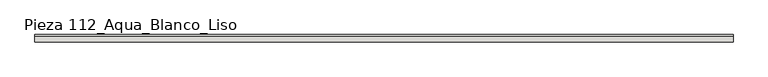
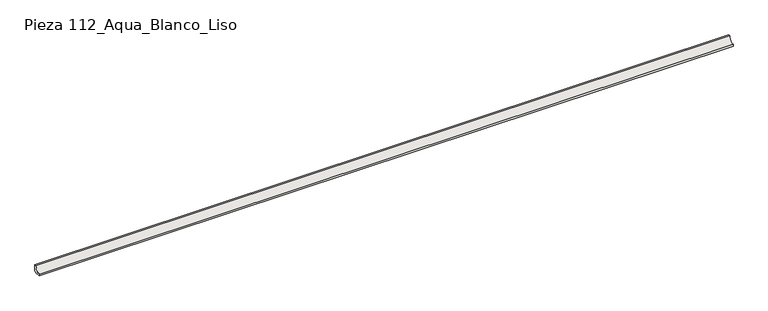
"""IFC4 building model written with IfcOpenShell, lengths in millimetres: slab geometry, ROSA GRES_112 : Pieza 112_Aqua_Blanco_Liso."""

import ifcopenshell
import ifcopenshell.guid

model = None  # the IFC model being written
_history = None  # IfcOwnerHistory: only IFC2X3 demands one
_inside = {}  # id of a spatial element -> (the spatial element, [elements in it])
_under = {}  # id of a project, library or spatial element -> (it, [spatial elements below it])
_declared = {}  # id of a project -> (the project, [libraries it declares])
_typed = {}  # id of a type object -> (the type object, [elements of that type])
_made_of = {}  # id of a material, layer set ... -> (it, [elements and type objects made of it])


def new_model(schema):
    """Start an empty IFC model of exactly this schema.

    Asked for "IFC4X3", IfcOpenShell would pick the latest addendum, in which some entities
    have other attributes; the version numbers below select the first issue.
    IFC2X3 requires an IfcOwnerHistory on every rooted entity: one is made here for all.
    """
    global model, _history
    if schema == "IFC4X3":
        model = ifcopenshell.file(schema_version=(4, 3, 0, 0))
    else:
        model = ifcopenshell.file(schema=schema)
    _inside.clear()
    _under.clear()
    _declared.clear()
    _typed.clear()
    _made_of.clear()
    _history = None
    if model.schema == "IFC2X3":
        org = make("IfcOrganization", Name="unknown")
        user = make(
            "IfcPersonAndOrganization",
            ThePerson=make("IfcPerson", FamilyName="unknown"),
            TheOrganization=org,
        )
        app = make(
            "IfcApplication",
            ApplicationDeveloper=org,
            Version="unknown",
            ApplicationFullName="unknown",
            ApplicationIdentifier="unknown",
        )
        _history = make(
            "IfcOwnerHistory",
            OwningUser=user,
            OwningApplication=app,
            ChangeAction="ADDED",
            CreationDate=0,
        )
    return model


def make(cls, **values):
    """One entity of the class cls with the attributes given. An attribute that is None is left unset."""
    return model.create_entity(
        cls, **{name: value for name, value in values.items() if value is not None}
    )


def rooted(cls, **values):
    """An entity with a GlobalId (a new one), such as an element, a storey or a relation."""
    return make(cls, GlobalId=ifcopenshell.guid.new(), OwnerHistory=_history, **values)


def si_unit(unit_type, name, prefix=None):
    """IfcSIUnit, for example si_unit("LENGTHUNIT", "METRE", prefix="MILLI")."""
    return make("IfcSIUnit", UnitType=unit_type, Prefix=prefix, Name=name)


def assignment(units):
    """IfcUnitAssignment: the units of a project."""
    return None if units is None else make("IfcUnitAssignment", Units=units)


def point(xyz):
    """IfcCartesianPoint."""
    return None if xyz is None else make("IfcCartesianPoint", Coordinates=xyz)


def direction(xyz):
    """IfcDirection."""
    return None if xyz is None else make("IfcDirection", DirectionRatios=xyz)


def frame(location, z_axis=None, x_axis=None):
    """IfcAxis2Placement3D, a coordinate frame: its origin and axes. An axis left out is left unset."""
    return make(
        "IfcAxis2Placement3D",
        Location=point(location),
        Axis=direction(z_axis),
        RefDirection=direction(x_axis),
    )


def frame_2d(location, x_axis=None):
    """IfcAxis2Placement2D, a coordinate frame in the plane: its origin and x axis."""
    return make(
        "IfcAxis2Placement2D", Location=point(location), RefDirection=direction(x_axis)
    )


def origin():
    """The frame at (0, 0, 0) with its axes left unset."""
    return frame((0.0, 0.0, 0.0))


def place(relative_to, where):
    """IfcLocalPlacement: puts the frame where relative to a parent placement (None: the world)."""
    return make(
        "IfcLocalPlacement", PlacementRelTo=relative_to, RelativePlacement=where
    )


def context(
    kind, dimensions, precision=None, world=None, true_north=None, identifier=None
):
    """IfcGeometricRepresentationContext, for example the 3D "Model" context."""
    return make(
        "IfcGeometricRepresentationContext",
        ContextIdentifier=identifier,
        ContextType=kind,
        CoordinateSpaceDimension=dimensions,
        Precision=precision,
        WorldCoordinateSystem=world,
        TrueNorth=true_north,
    )


def project(units=None, contexts=None):
    """IfcProject with its units and contexts."""
    return rooted(
        "IfcProject",
        Name="project",
        RepresentationContexts=contexts,
        UnitsInContext=assignment(units),
    )


def spatial(cls, under=None, at=None, **own):
    """A site, building, storey or space (cls), placed at a placement, below another one or the project."""
    s = rooted(cls, ObjectPlacement=at, **own)
    if under is not None:
        _under.setdefault(under.id(), (under, []))[1].append(s)
    return s


def polyline(points):
    """IfcPolyline through the points."""
    return make("IfcPolyline", Points=[point(p) for p in points])


def circle_curve(where, radius):
    """IfcCircle in the frame where."""
    return make("IfcCircle", Position=where, Radius=radius)


def trimmed(basis, trim1, trim2, sense, master):
    """IfcTrimmedCurve: the piece of a basis curve between two trims."""
    return make(
        "IfcTrimmedCurve",
        BasisCurve=basis,
        Trim1=trim1,
        Trim2=trim2,
        SenseAgreement=sense,
        MasterRepresentation=master,
    )


def segment(curve, same_sense, transition):
    """IfcCompositeCurveSegment."""
    return make(
        "IfcCompositeCurveSegment",
        Transition=transition,
        SameSense=same_sense,
        ParentCurve=curve,
    )


def composite_curve(segments, self_intersect=None):
    """IfcCompositeCurve: segments joined end to end."""
    return make("IfcCompositeCurve", Segments=segments, SelfIntersect=self_intersect)


def outline(outer, holes=None, kind="AREA"):
    """IfcArbitraryClosedProfileDef: a profile drawn as a closed curve; with holes, ...WithVoids."""
    if holes is None:
        return make("IfcArbitraryClosedProfileDef", ProfileType=kind, OuterCurve=outer)
    return make(
        "IfcArbitraryProfileDefWithVoids",
        ProfileType=kind,
        OuterCurve=outer,
        InnerCurves=holes,
    )


def extrude(swept, where, along, depth):
    """IfcExtrudedAreaSolid: the profile swept, set in the frame where, extruded along a direction by depth."""
    return make(
        "IfcExtrudedAreaSolid",
        SweptArea=swept,
        Position=where,
        ExtrudedDirection=direction(along),
        Depth=depth,
    )


def shape(context_of_items, identifier, shape_type, items):
    """IfcShapeRepresentation: the items that make up one representation, for example the "Body"."""
    return make(
        "IfcShapeRepresentation",
        ContextOfItems=context_of_items,
        RepresentationIdentifier=identifier,
        RepresentationType=shape_type,
        Items=items,
    )


def source(mapping_origin, context_of_items, identifier, shape_type, items):
    """IfcRepresentationMap: a shape defined once, which mapped items show again and again."""
    return make(
        "IfcRepresentationMap",
        MappingOrigin=mapping_origin,
        MappedRepresentation=shape(context_of_items, identifier, shape_type, items),
    )


def transform(
    local_origin,
    x_axis=None,
    y_axis=None,
    z_axis=None,
    scale=None,
    scale2=None,
    scale3=None,
    uniform=True,
):
    """IfcCartesianTransformationOperator3D, or its non-uniform kind. x_axis, y_axis, z_axis: its Axis1, 2, 3."""
    if uniform:
        return make(
            "IfcCartesianTransformationOperator3D",
            Axis1=direction(x_axis),
            Axis2=direction(y_axis),
            LocalOrigin=point(local_origin),
            Scale=scale,
            Axis3=direction(z_axis),
        )
    return make(
        "IfcCartesianTransformationOperator3DnonUniform",
        Axis1=direction(x_axis),
        Axis2=direction(y_axis),
        LocalOrigin=point(local_origin),
        Scale=scale,
        Axis3=direction(z_axis),
        Scale2=scale2,
        Scale3=scale3,
    )


def mapped(mapping_source, mapping_target):
    """IfcMappedItem: shows the shape of a source again, moved by a transform."""
    return make(
        "IfcMappedItem", MappingSource=mapping_source, MappingTarget=mapping_target
    )


def made_of(thing, what):
    """Note that an element or type object is made of a material, layer set ...; save() writes the relation."""
    if what is not None:
        _made_of.setdefault(what.id(), (what, []))[1].append(thing)
    return thing


def element(
    cls,
    number,
    at=None,
    inside=None,
    cuts=None,
    type_object=None,
    material=None,
    context=None,
    identifier="Body",
    shape_type=None,
    held_by="IfcProductDefinitionShape",
    body=None,
    shapes=None,
    **own,
):
    """One element of the class cls, such as IfcWall. Its Tag is "e" and its number.

    at: its placement. inside: the storey or other place that contains it. cuts: it is an
    opening in that element (IfcRelVoidsElement). A single representation is given by context,
    identifier, shape_type and body (its items); several are given by shapes. held_by: the class
    of the entity that holds the representations. save() writes the other relations.
    """
    e = rooted(cls, Tag="e%d" % number, ObjectPlacement=at, **own)
    if body is not None:
        shapes = [shape(context, identifier, shape_type, body)]
    if shapes is not None:
        e.Representation = make(held_by, Representations=shapes)
    if inside is not None:
        _inside.setdefault(inside.id(), (inside, []))[1].append(e)
    if cuts is not None:
        rooted(
            "IfcRelVoidsElement", RelatingBuildingElement=cuts, RelatedOpeningElement=e
        )
    if type_object is not None:
        _typed.setdefault(type_object.id(), (type_object, []))[1].append(e)
    return made_of(e, material)


def aggregate(whole, parts):
    """IfcRelAggregates: a whole, such as a stair, and the parts it consists of."""
    return rooted("IfcRelAggregates", RelatingObject=whole, RelatedObjects=parts)


def save(model, path):
    """Write the relations noted so far, then the file.

    IfcRelAggregates (storeys below a building ...), IfcRelContainedInSpatialStructure (elements
    in a storey), IfcRelDefinesByType, IfcRelAssociatesMaterial and IfcRelDeclares: one each for
    every whole, place, type object, material and project.
    """
    for whole, parts in _under.values():
        aggregate(whole, parts)
    for where, things in _inside.values():
        rooted(
            "IfcRelContainedInSpatialStructure",
            RelatedElements=things,
            RelatingStructure=where,
        )
    for kind, things in _typed.values():
        rooted("IfcRelDefinesByType", RelatedObjects=things, RelatingType=kind)
    for what, things in _made_of.values():
        rooted("IfcRelAssociatesMaterial", RelatedObjects=things, RelatingMaterial=what)
    for by, libraries in _declared.values():
        rooted("IfcRelDeclares", RelatingContext=by, RelatedDefinitions=libraries)
    model.write(path)


def pieza_112_aqua_blanco_liso_759fbee8(model_context):
    return source(origin(), model_context, "Body", "SweptSolid", [
        extrude(outline(composite_curve([segment(polyline([(9.9734114, 8.7114978), (1.2619137, 0.0), (-30.0265886, 0.0), (-30.0265886, 9.9734114)]), True, "CONTINUOUS"), segment(trimmed(circle_curve(frame_2d((-30.0221432, 39.9955547)), 30.0221435), [point((-30.0265886, 9.9734114))], [point((0.0, 40.0))], True, "CARTESIAN"), True, "CONTINUOUS"), segment(polyline([(0.0, 40.0), (9.9734114, 40.0), (9.9734114, 8.7114978)]), True, "CONTINUOUS")], self_intersect=False)), frame((0.0, 0.0, 0.0), z_axis=(1.0, 0.0, 0.0), x_axis=(0.0, 1.0, 0.0)), (0.0, 0.0, 1.0), 3796.5),
    ])


if __name__ == "__main__":
    model = new_model("IFC4")
    model_context = context("Model", 3, world=origin())
    ifc_project = project(units=[si_unit("LENGTHUNIT", "METRE", prefix="MILLI")], contexts=[model_context])
    site = spatial("IfcSite", under=ifc_project)
    building = spatial("IfcBuilding", under=site)
    placement = place(None, origin())
    pieza_112_aqua_blanco_liso_shape = pieza_112_aqua_blanco_liso_759fbee8(model_context)
    element("IfcSlab", 1, ObjectType="ROSA GRES_112 : Pieza 112_Aqua_Blanco_Liso", at=placement, inside=building, context=model_context, shape_type="MappedRepresentation", body=[
        mapped(pieza_112_aqua_blanco_liso_shape, transform((0.0, 0.0, 0.0), x_axis=(1.0, 0.0, 0.0), y_axis=(0.0, 1.0, 0.0), z_axis=(0.0, 0.0, 1.0))),
    ])
    save(model, "model.ifc")
